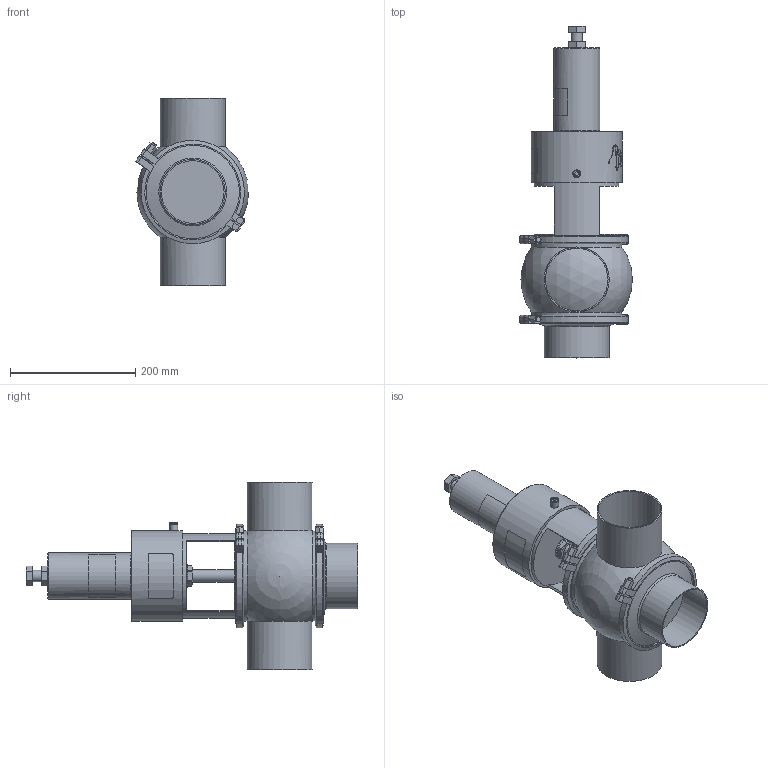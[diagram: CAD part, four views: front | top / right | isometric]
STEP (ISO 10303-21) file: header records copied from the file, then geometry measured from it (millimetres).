
FILE_DESCRIPTION (( 'STEP AP214' ), '1' );
FILE_NAME ('INNOVA J T W DIN 100_10.245.16.0002.STEP', '2024-08-08T08:03:02', ( '' ), ( '' ), 'SwSTEP 2.0', 'SolidWorks 2023', '' );
FILE_SCHEMA (( 'AUTOMOTIVE_DESIGN' ));
Length unit declared in the file: millimetre
Products named in the file (6): 10.247.15.0001_DIN 100; 10.245.15.0001_T3 SE NC_DN 100; INNOVA J T W DIN 100_10.245.16.0002; 10.240.15.0010_DN 100; 10.240.15.0007_DIN 100; 10.240.15.0001_DN 100
Assembly tree (6 placements, depth 2):
  INNOVA J T W DIN 100_10.245.16.0002
    10.240.15.0007_DIN 100
    10.247.15.0001_DIN 100
    10.240.15.0010_DN 100
    10.245.15.0001_T3 SE NC_DN 100
    10.240.15.0001_DN 100  x2
Bounding box: 180.26 x 530 x 300 mm (x, y, z)
Volume: 5278663.8 mm3; surface area: 543932.9 mm2
Topology: 6 solids, 6 shells, 382 faces, 1020 edges, 671 vertices
Faces by surface type: plane 191, cylinder 82, bspline 78, cone 25, sphere 4, torus 2
Full cylindrical faces by diameter (mm): 6.15 x1, 8 x4, 10.5 x1, 12.5 x2, 18 x1, 20 x1, 36.5 x1, 74 x1, 100 x3, 104 x3, 135 x1, 144.5 x2, 145 x1, 156.5 x4
Entity records: 20105 total; most frequent: CARTESIAN_POINT 11087, ORIENTED_EDGE 1598, DIRECTION 1205, EDGE_CURVE 799, VERTEX_POINT 548, AXIS2_PLACEMENT_3D 450, EDGE_LOOP 391, FACE_OUTER_BOUND 350
